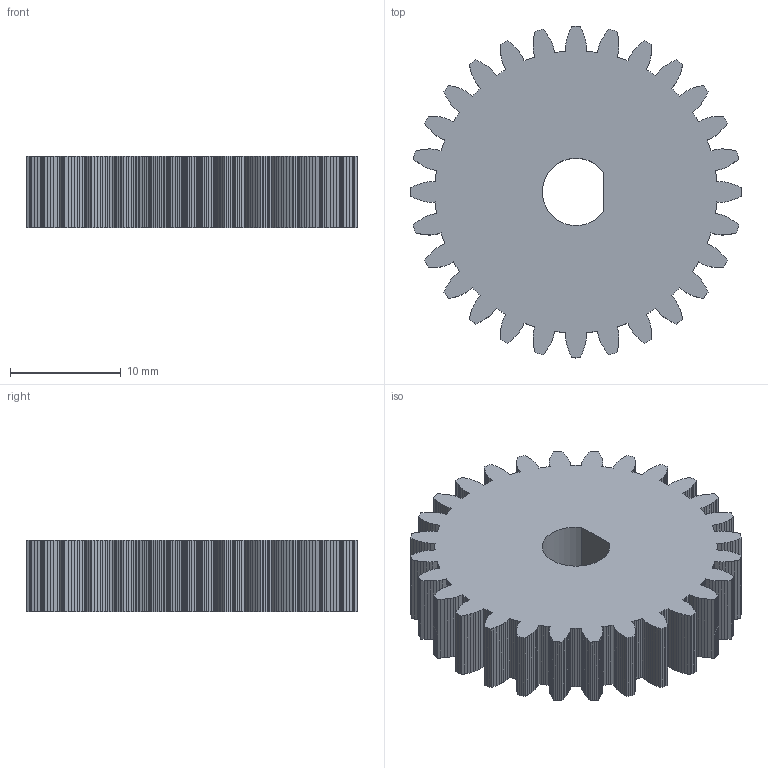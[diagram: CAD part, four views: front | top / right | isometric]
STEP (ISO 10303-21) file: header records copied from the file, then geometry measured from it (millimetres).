
FILE_DESCRIPTION(('Open CASCADE Model'),'2;1');
FILE_NAME('Open CASCADE Shape Model','2026-10-17T23:18:54',('Author'),( 'Open CASCADE'),'Open CASCADE STEP processor 7.9','Open CASCADE 7.9' ,'Unknown');
FILE_SCHEMA(('AUTOMOTIVE_DESIGN { 1 0 10303 214 1 1 1 1 }'));
Length unit declared in the file: millimetre
Products named in the file (1): Open CASCADE STEP translator 7.9 11
Bounding box: 30 x 30 x 6.5 mm (x, y, z)
Volume: 3759.5 mm3; surface area: 2470 mm2
Topology: 1 solids, 1 shells, 704 faces, 2106 edges, 1404 vertices
Faces by surface type: plane 703, cylinder 1
Entity records: 50590 total; most frequent: CARTESIAN_POINT 8439, DIRECTION 7728, LINE 6314, VECTOR 6314, ORIENTED_EDGE 4212, PCURVE 4212, DEFINITIONAL_REPRESENTATION 4212, EDGE_CURVE 2106
